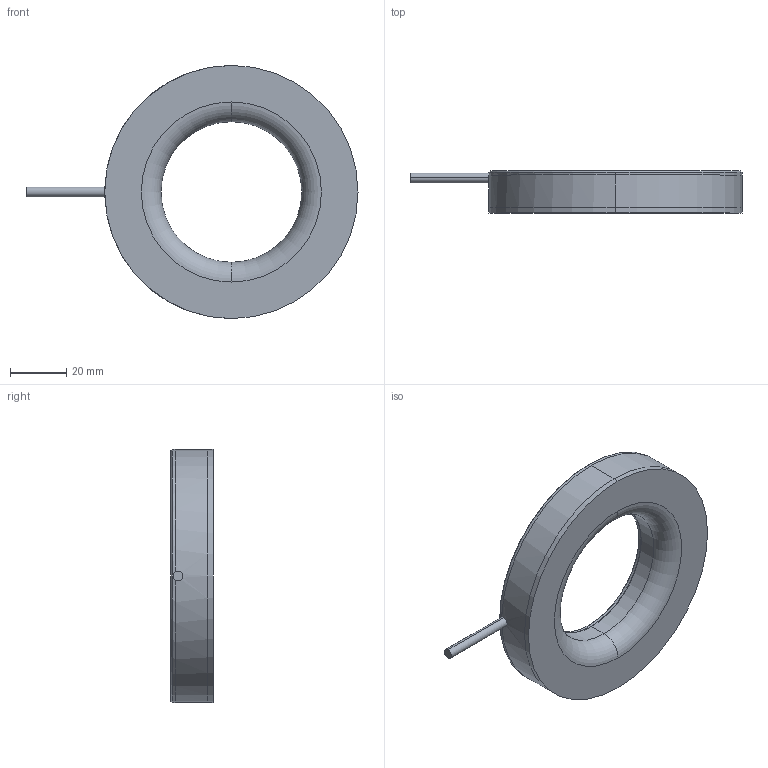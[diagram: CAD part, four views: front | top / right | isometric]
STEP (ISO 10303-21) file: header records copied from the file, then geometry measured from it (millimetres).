
FILE_DESCRIPTION (( 'STEP AP203' ), '1' );
FILE_NAME ('P-RL-90-45 ¼òÒ×3D.STEP', '2020-03-30T08:22:24', ( '' ), ( '' ), 'SwSTEP 2.0', 'SolidWorks 2016', '' );
FILE_SCHEMA (( 'CONFIG_CONTROL_DESIGN' ));
Length unit declared in the file: millimetre
Products named in the file (1): P-RL-90-45 潠眢3D
Bounding box: 118 x 15 x 90 mm (x, y, z)
Volume: 49329 mm3; surface area: 35505.7 mm2
Topology: 4 solids, 4 shells, 82 faces, 184 edges, 108 vertices
Faces by surface type: cylinder 39, cone 22, plane 17, torus 4
Entity records: 2638 total; most frequent: CARTESIAN_POINT 734, DIRECTION 401, ORIENTED_EDGE 352, EDGE_CURVE 176, AXIS2_PLACEMENT_3D 165, VERTEX_POINT 108, EDGE_LOOP 102, CIRCLE 82
